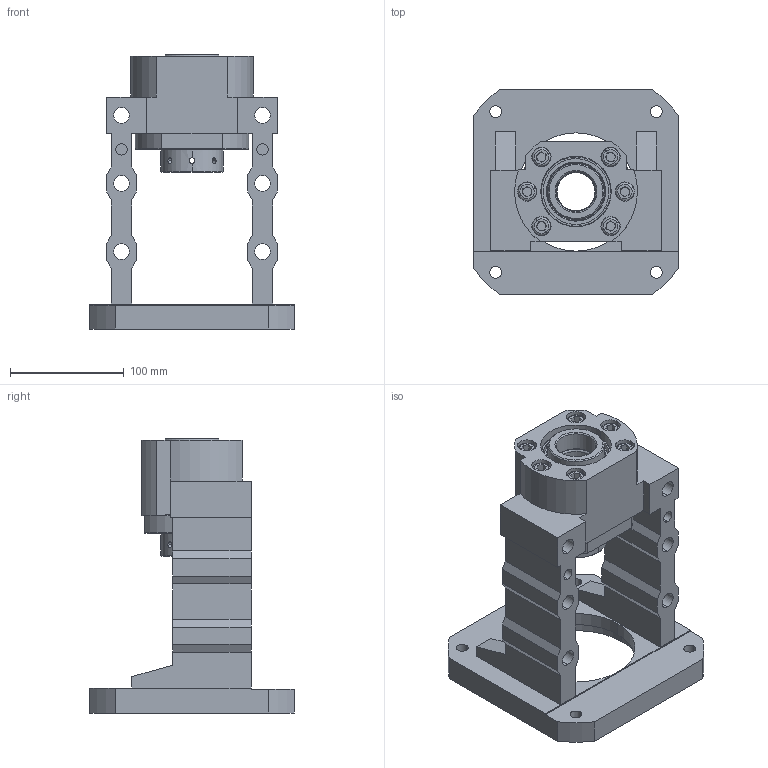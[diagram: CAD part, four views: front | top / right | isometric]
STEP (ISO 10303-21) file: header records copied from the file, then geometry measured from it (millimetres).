
FILE_DESCRIPTION (( 'STEP AP203' ), '1' );
FILE_NAME ('MBCK35-H²Õ¦X¥ó.STEP', '2022-10-20T05:24:26', ( '' ), ( '' ), 'SwSTEP 2.0', 'SolidWorks 2018', '' );
FILE_SCHEMA (( 'CONFIG_CONTROL_DESIGN' ));
Length unit declared in the file: millimetre
Products named in the file (1): MBCK35-H組合件
Bounding box: 180 x 180 x 241 mm (x, y, z)
Surface area: 243036.4 mm2 (no closed solid volume)
Topology: 0 solids, 23 shells, 346 faces, 979 edges, 647 vertices
Faces by surface type: plane 130, cylinder 118, cone 66, torus 20, bspline 12
Entity records: 30385 total; most frequent: CARTESIAN_POINT 21417, DIRECTION 1890, ORIENTED_EDGE 1706, EDGE_CURVE 971, AXIS2_PLACEMENT_3D 714, VERTEX_POINT 647, VECTOR 462, LINE 462
